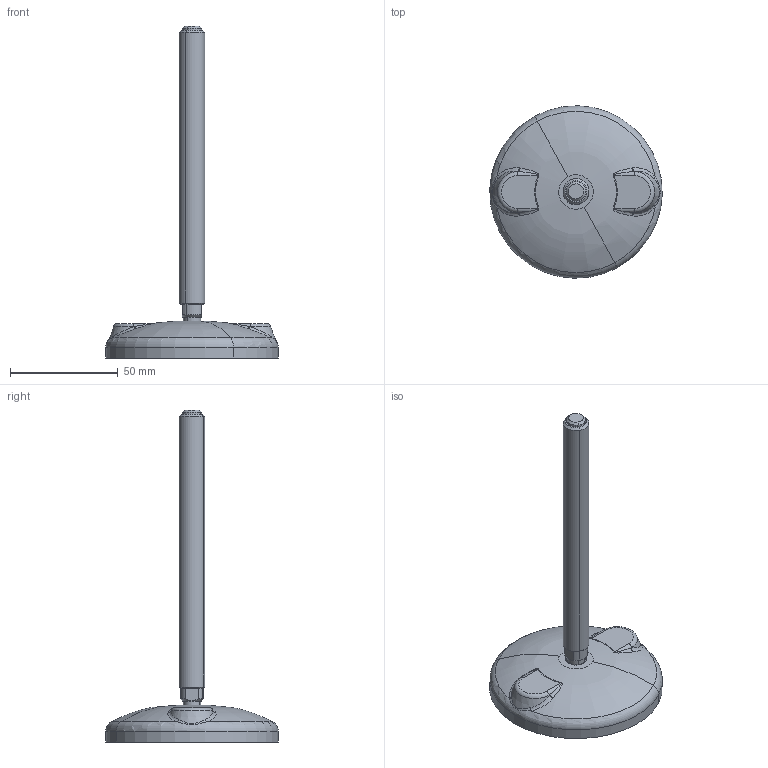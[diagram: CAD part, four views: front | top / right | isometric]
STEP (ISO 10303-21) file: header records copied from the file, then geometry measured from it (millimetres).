
FILE_DESCRIPTION(('CATIA V5 STEP Exchange'),'2;1');
FILE_NAME('X:\CODICI MOVEX\3D per clienti\3D definitivi\Part 900\P95303Y_01.stp','2016-05-27T13:55:07+00:00',('none'),('none'),'Version 5-6 Release 2012','CATIA V5 STEP AP203','none');
FILE_SCHEMA(('CONFIG_CONTROL_DESIGN'));
Length unit declared in the file: millimetre
Products named in the file (1): P95303Y_01
Assembly tree (2 placements, depth 2):
  P95303Y_01
    #58
    #716
Bounding box: 79.98 x 79.98 x 154 mm (x, y, z)
Volume: 49171.7 mm3; surface area: 33640.5 mm2
Topology: 2 solids, 4 shells, 639 faces, 1814 edges, 1191 vertices
Faces by surface type: plane 490, torus 48, cylinder 34, revolution 21, sphere 18, cone 14, bspline 14
Entity records: 24152 total; most frequent: CARTESIAN_POINT 10165, ORIENTED_EDGE 3616, EDGE_CURVE 1808, DIRECTION 1753, VERTEX_POINT 1191, B_SPLINE_CURVE_WITH_KNOTS 1065, AXIS2_PLACEMENT_3D 705, EDGE_LOOP 655
